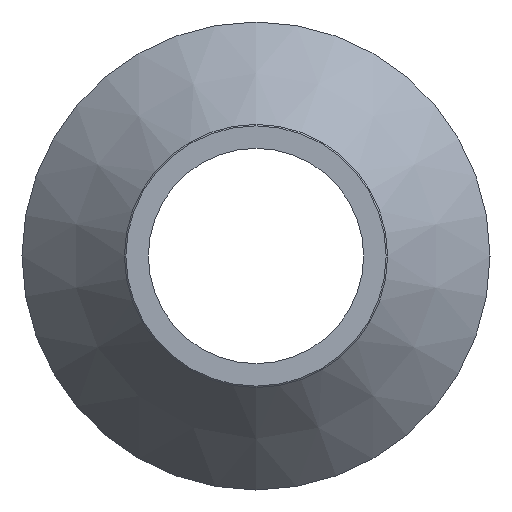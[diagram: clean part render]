
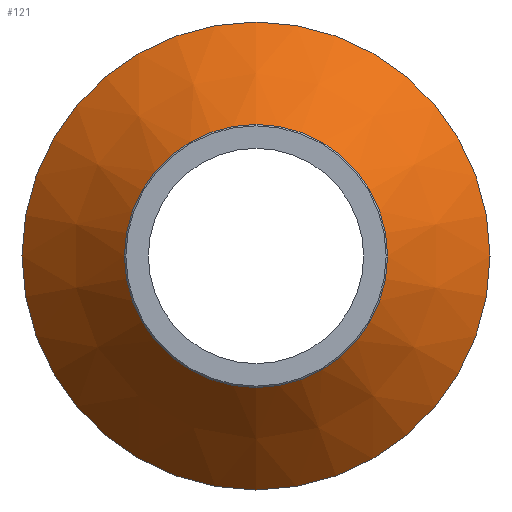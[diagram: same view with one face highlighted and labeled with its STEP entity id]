
A CAD part, left-side view. The second image highlights one B-rep face of the part: STEP entity #121.
In plain terms, the highlighted conical face has half-angle 41.186 degrees and reference radius 80 mm.
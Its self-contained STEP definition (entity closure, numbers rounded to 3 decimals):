
#22=CONICAL_SURFACE('',#146,80.,0.719);
#28=ORIENTED_EDGE('',*,*,#48,.F.);
#29=ORIENTED_EDGE('',*,*,#47,.T.);
#47=EDGE_CURVE('',#57,#57,#67,.T.);
#48=EDGE_CURVE('',#58,#58,#68,.T.);
#57=VERTEX_POINT('',#210);
#58=VERTEX_POINT('',#213);
#67=CIRCLE('',#145,80.);
#68=CIRCLE('',#147,45.);
#78=EDGE_LOOP('',(#28));
#79=EDGE_LOOP('',(#29));
#98=FACE_BOUND('',#78,.T.);
#99=FACE_BOUND('',#79,.T.);
#121=ADVANCED_FACE('',(#98,#99),#22,.T.);
#145=AXIS2_PLACEMENT_3D('',#209,#169,#170);
#146=AXIS2_PLACEMENT_3D('',#211,#171,#172);
#147=AXIS2_PLACEMENT_3D('',#212,#173,#174);
#169=DIRECTION('',(-1.,0.,0.));
#170=DIRECTION('',(0.,0.,1.));
#171=DIRECTION('',(1.,0.,0.));
#172=DIRECTION('',(0.,0.,-1.));
#173=DIRECTION('',(-1.,0.,0.));
#174=DIRECTION('',(0.,0.,1.));
#209=CARTESIAN_POINT('',(20.,0.,0.));
#210=CARTESIAN_POINT('',(20.,0.,80.));
#211=CARTESIAN_POINT('',(20.,0.,0.));
#212=CARTESIAN_POINT('',(-20.,0.,0.));
#213=CARTESIAN_POINT('',(-20.,0.,45.));
